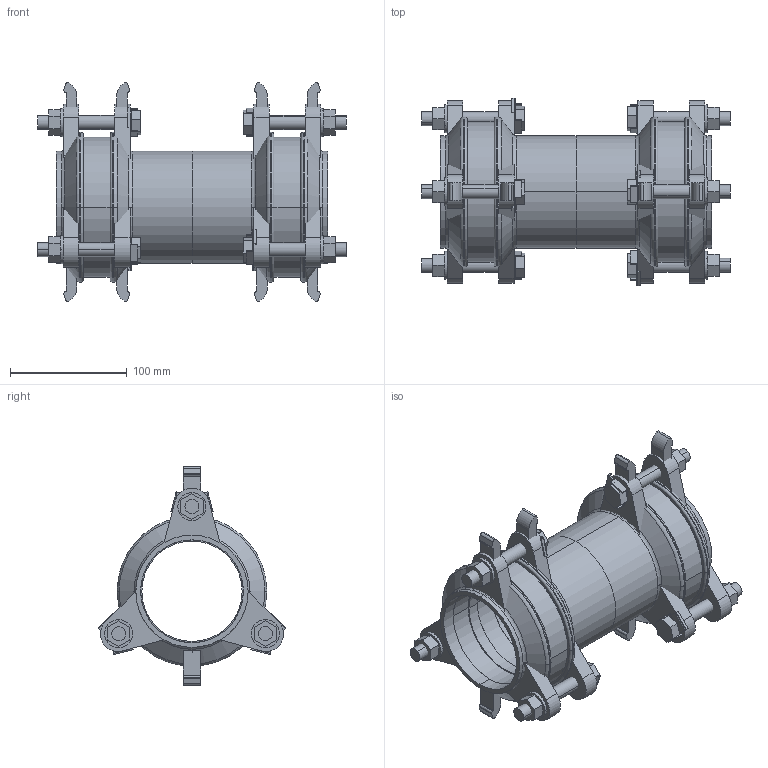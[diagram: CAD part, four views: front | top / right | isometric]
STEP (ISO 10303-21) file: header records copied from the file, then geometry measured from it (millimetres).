
FILE_DESCRIPTION(('STEP AP214'),'1');
FILE_NAME('MJ000037 DN 65.STP','2015-02-06T10:56:38',(' '),(' '),'Spatial InterOp 3D',' ',' ');
FILE_SCHEMA(('automotive_design'));
Length unit declared in the file: millimetre
Products named in the file (66): 3D-Objekt
Bounding box: 264 x 160.65 x 187 mm (x, y, z)
Volume: 1059322.5 mm3; surface area: 392135.2 mm2
Topology: 66 solids, 66 shells, 526 faces, 1178 edges, 784 vertices
Faces by surface type: plane 352, cylinder 134, torus 24, cone 16
Entity records: 20426 total; most frequent: DIRECTION 2730, CARTESIAN_POINT 2554, ORIENTED_EDGE 2356, EDGE_CURVE 1178, AXIS2_PLACEMENT_3D 960, LINE 810, VECTOR 810, VERTEX_POINT 784
